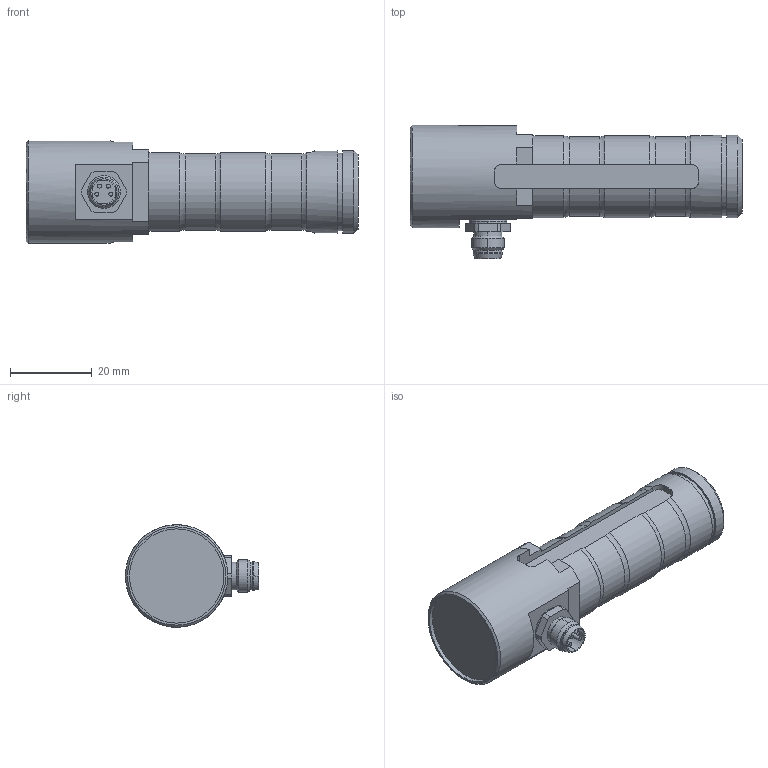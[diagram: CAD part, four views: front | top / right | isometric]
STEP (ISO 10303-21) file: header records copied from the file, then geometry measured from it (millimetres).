
FILE_DESCRIPTION(/* description */ ('Alibre Inc.'),/* implementation_level */ '2;1');
FILE_NAME(/* name */ 'export-82F1DC0B-FF6B-455A-ACB2-E44D6D0F4A32',/* time_stamp */ '2020-08-28T13:51:04+02:00',/* author */ (''),/* organization */ (''),/* preprocessor_version */ 'ST-DEVELOPER v17',/* originating_system */ 'Alibre',/* authorisation */ '');
FILE_SCHEMA (('CONFIG_CONTROL_DESIGN'));
Length unit declared in the file: centimetre
Bounding box: 81 x 32.5 x 25 mm (x, y, z)
Volume: 28708.4 mm3; surface area: 7970.6 mm2
Topology: 2 solids, 2 shells, 135 faces, 337 edges, 225 vertices
Faces by surface type: cylinder 60, plane 55, cone 10, torus 10
Full cylindrical faces by diameter (mm): 1 x4, 7.5 x1, 19 x1, 20.1 x2, 23 x1, 25 x1
Entity records: 4234 total; most frequent: CARTESIAN_POINT 865, ORIENTED_EDGE 658, DIRECTION 586, EDGE_CURVE 329, AXIS2_PLACEMENT_3D 246, VERTEX_POINT 229, EDGE_LOOP 166, FACE_BOUND 166
